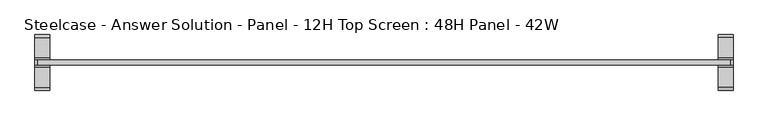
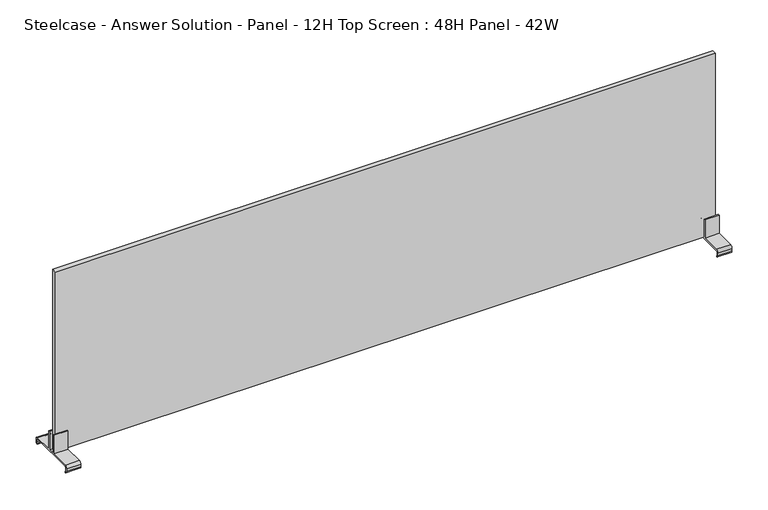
"""IFC4 building model written with IfcOpenShell, lengths in millimetres: furniture geometry, Steelcase - Answer Solution - Panel - 12H Top Screen : 48H Panel - 42W."""

from ifc_helpers import new_model, si_unit, point, frame, frame_2d, origin, place, context, project, spatial, polyline, circle_curve, trimmed, segment, composite_curve, outline, extrude, source, transform, mapped, element, save


def steelcase_answer_solution_panel_12h_top_screen_48h_panel_42w_4c2e11e8(model_context):
    return source(origin(), model_context, "Body", "SweptSolid", [
        extrude(outline(polyline([(529.336, -3.683001), (-529.336, -3.683001), (-529.336, 3.683001), (529.336, 3.683001), (529.336, -3.683001)])), frame((0.0, 0.0, 1227.5819981), z_axis=(0.0, 0.0, 1.0), x_axis=(1.0, 0.0, 0.0)), (0.0, 0.0, 1.0), 304.8),
        extrude(outline(composite_curve([segment(trimmed(circle_curve(frame_2d((38.5445, 1223.645)), 1.905), [point((40.4495, 1223.645))], [point((38.5445, 1225.55))], True, "CARTESIAN"), True, "CONTINUOUS"), segment(polyline([(38.5445, 1225.55), (-38.5445, 1225.55)]), True, "CONTINUOUS"), segment(trimmed(circle_curve(frame_2d((-38.5445, 1223.645)), 1.905), [point((-38.5445, 1225.55))], [point((-40.4495, 1223.645))], True, "CARTESIAN"), True, "CONTINUOUS"), segment(polyline([(-40.4495, 1223.645), (-40.4495, 1219.0341187)]), True, "CONTINUOUS"), segment(trimmed(circle_curve(frame_2d((-38.5445, 1219.0341187)), 1.905), [point((-40.4495, 1219.0341187))], [point((-38.6743328, 1217.1335481))], True, "CARTESIAN"), True, "CONTINUOUS"), segment(polyline([(-38.6743328, 1217.1335481), (-39.2392449, 1215.5535566)]), True, "CONTINUOUS"), segment(trimmed(circle_curve(frame_2d((-38.5459934, 1219.4284569)), 3.9364261), [point((-39.2392449, 1215.5535566))], [point((-42.4824195, 1219.4284569))], False, "CARTESIAN"), True, "CONTINUOUS"), segment(polyline([(-42.4824195, 1219.4284569), (-42.4824195, 1223.6452288)]), True, "CONTINUOUS"), segment(trimmed(circle_curve(frame_2d((-38.5459934, 1223.6452288)), 3.9364261), [point((-42.4824195, 1223.6452288))], [point((-38.5459934, 1227.5816549))], False, "CARTESIAN"), True, "CONTINUOUS"), segment(polyline([(-38.5459934, 1227.5816549), (-6.7310004, 1227.5816549), (-6.7310004, 1258.5699952), (-4.699, 1258.5699952), (-4.699, 1227.5819952), (4.699, 1227.5819952), (4.699, 1258.5700048), (6.7310004, 1258.5700048), (6.7310004, 1227.5816549), (38.5459934, 1227.5816549)]), True, "CONTINUOUS"), segment(trimmed(circle_curve(frame_2d((38.5459934, 1223.6452288)), 3.9364261), [point((38.5459934, 1227.5816549))], [point((42.4824195, 1223.6452288))], False, "CARTESIAN"), True, "CONTINUOUS"), segment(polyline([(42.4824195, 1223.6452288), (42.4824195, 1219.4284569)]), True, "CONTINUOUS"), segment(trimmed(circle_curve(frame_2d((38.5459934, 1219.4284569)), 3.9364261), [point((42.4824195, 1219.4284569))], [point((39.6631716, 1215.6538889))], False, "CARTESIAN"), True, "CONTINUOUS"), segment(polyline([(39.6631716, 1215.6538889), (39.1055128, 1217.2135996)]), True, "CONTINUOUS"), segment(trimmed(circle_curve(frame_2d((38.5445, 1219.0341187)), 1.905), [point((39.1055128, 1217.2135996))], [point((40.4495, 1219.0341187))], True, "CARTESIAN"), True, "CONTINUOUS"), segment(polyline([(40.4495, 1219.0341187), (40.4495, 1223.645)]), True, "CONTINUOUS")], self_intersect=False)), frame((510.794, 0.0, 0.0), z_axis=(1.0, 0.0, 0.0), x_axis=(0.0, 1.0, 0.0)), (0.0, 0.0, 1.0), 22.606),
        extrude(outline(composite_curve([segment(trimmed(circle_curve(frame_2d((38.5445, 1223.645)), 1.905), [point((40.4495, 1223.645))], [point((38.5445, 1225.55))], True, "CARTESIAN"), True, "CONTINUOUS"), segment(polyline([(38.5445, 1225.55), (-38.5445, 1225.55)]), True, "CONTINUOUS"), segment(trimmed(circle_curve(frame_2d((-38.5445, 1223.645)), 1.905), [point((-38.5445, 1225.55))], [point((-40.4495, 1223.645))], True, "CARTESIAN"), True, "CONTINUOUS"), segment(polyline([(-40.4495, 1223.645), (-40.4495, 1219.0341187)]), True, "CONTINUOUS"), segment(trimmed(circle_curve(frame_2d((-38.5445, 1219.0341187)), 1.905), [point((-40.4495, 1219.0341187))], [point((-38.6743328, 1217.1335481))], True, "CARTESIAN"), True, "CONTINUOUS"), segment(polyline([(-38.6743328, 1217.1335481), (-39.2392449, 1215.5535566)]), True, "CONTINUOUS"), segment(trimmed(circle_curve(frame_2d((-38.5459934, 1219.4284569)), 3.9364261), [point((-39.2392449, 1215.5535566))], [point((-42.4824195, 1219.4284569))], False, "CARTESIAN"), True, "CONTINUOUS"), segment(polyline([(-42.4824195, 1219.4284569), (-42.4824195, 1223.6452288)]), True, "CONTINUOUS"), segment(trimmed(circle_curve(frame_2d((-38.5459934, 1223.6452288)), 3.9364261), [point((-42.4824195, 1223.6452288))], [point((-38.5459934, 1227.5816549))], False, "CARTESIAN"), True, "CONTINUOUS"), segment(polyline([(-38.5459934, 1227.5816549), (-6.7310004, 1227.5816549), (-6.7310004, 1258.5699952), (-4.699, 1258.5699952), (-4.699, 1227.5819952), (4.699, 1227.5819952), (4.699, 1258.5700048), (6.7310004, 1258.5700048), (6.7310004, 1227.5816549), (38.5459934, 1227.5816549)]), True, "CONTINUOUS"), segment(trimmed(circle_curve(frame_2d((38.5459934, 1223.6452288)), 3.9364261), [point((38.5459934, 1227.5816549))], [point((42.4824195, 1223.6452288))], False, "CARTESIAN"), True, "CONTINUOUS"), segment(polyline([(42.4824195, 1223.6452288), (42.4824195, 1219.4284569)]), True, "CONTINUOUS"), segment(trimmed(circle_curve(frame_2d((38.5459934, 1219.4284569)), 3.9364261), [point((42.4824195, 1219.4284569))], [point((39.6631716, 1215.6538889))], False, "CARTESIAN"), True, "CONTINUOUS"), segment(polyline([(39.6631716, 1215.6538889), (39.1055128, 1217.2135996)]), True, "CONTINUOUS"), segment(trimmed(circle_curve(frame_2d((38.5445, 1219.0341187)), 1.905), [point((39.1055128, 1217.2135996))], [point((40.4495, 1219.0341187))], True, "CARTESIAN"), True, "CONTINUOUS"), segment(polyline([(40.4495, 1219.0341187), (40.4495, 1223.645)]), True, "CONTINUOUS")], self_intersect=False)), frame((-533.4, 0.0, 0.0), z_axis=(1.0, 0.0, 0.0), x_axis=(0.0, 1.0, 0.0)), (0.0, 0.0, 1.0), 22.606),
    ])


if __name__ == "__main__":
    model = new_model("IFC4")
    model_context = context("Model", 3, world=origin())
    ifc_project = project(units=[si_unit("LENGTHUNIT", "METRE", prefix="MILLI")], contexts=[model_context])
    site = spatial("IfcSite", under=ifc_project)
    building = spatial("IfcBuilding", under=site)
    placement = place(None, origin())
    steelcase_answer_solution_panel_12h_top_screen_48h_panel_42w_shape = steelcase_answer_solution_panel_12h_top_screen_48h_panel_42w_4c2e11e8(model_context)
    element("IfcFurniture", 1, ObjectType="Steelcase - Answer Solution - Panel - 12H Top Screen : 48H Panel - 42W", at=placement, inside=building, context=model_context, shape_type="MappedRepresentation", body=[
        mapped(steelcase_answer_solution_panel_12h_top_screen_48h_panel_42w_shape, transform((0.0, 0.0, 0.0), x_axis=(1.0, 0.0, 0.0), y_axis=(0.0, 1.0, 0.0), z_axis=(0.0, 0.0, 1.0))),
    ])
    save(model, "model.ifc")
